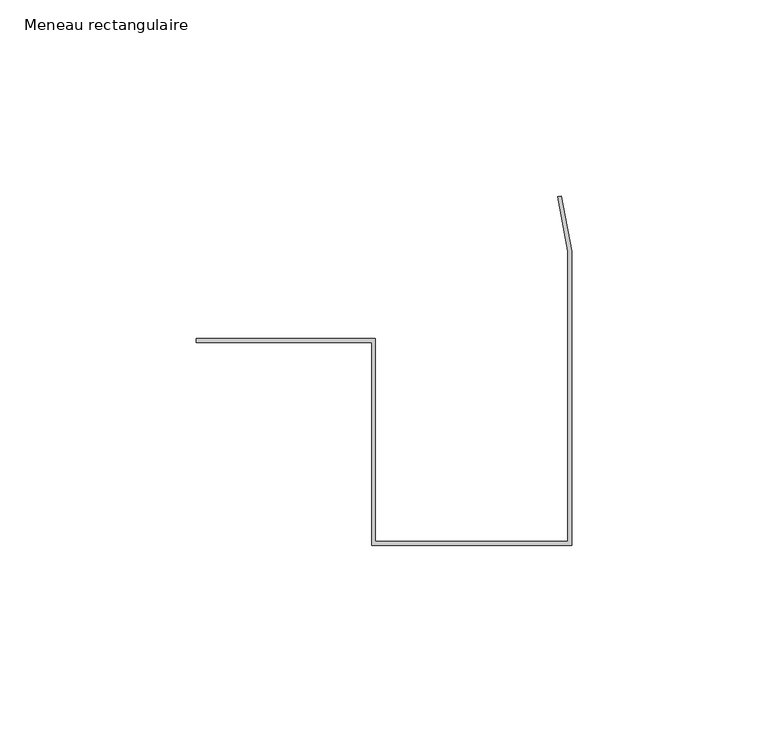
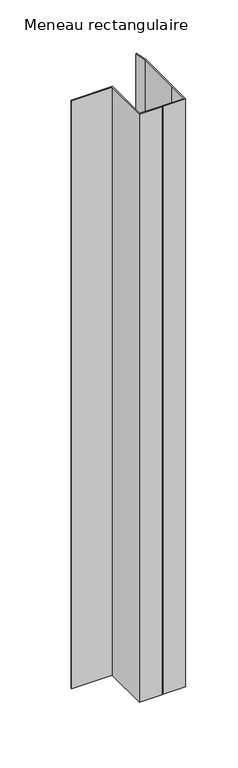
"""IFC4 building model written with IfcOpenShell, lengths in millimetres: member geometry, Meneau rectangulaire : Jonction contre mur Droite H."""

from ifc_helpers import new_model, si_unit, frame, origin, place, context, project, spatial, polyline, outline, extrude, source, transform, mapped, element, save


def meneau_rectangulaire_bee88b2e(model_context):
    return source(origin(), model_context, "Body", "SweptSolid", [
        extrude(outline(polyline([(-1.0, 26.3798616), (-3.6043568, 40.2461331), (-2.6384309, 40.4275528), (0.0, 26.3798616), (0.0, -23.6201384), (0.0, -48.6201384), (-25.0, -48.6201384), (-26.0, -48.6201384), (-51.0, -48.6201384), (-51.0, 3.1), (-95.6686418, 3.1), (-95.6686418, 4.1), (-50.0, 4.1), (-50.0, -47.6201384), (-26.0, -47.6201384), (-25.0, -47.6201384), (-1.0, -47.6201384), (-1.0, -23.6201384), (-1.0, 26.3798616)])), frame((0.0, 0.0, -685.1451617), z_axis=(0.0, 0.0, 1.0), x_axis=(1.0, 0.0, 0.0)), (0.0, 0.0, 1.0), 685.1451617),
    ])


if __name__ == "__main__":
    model = new_model("IFC4")
    model_context = context("Model", 3, world=origin())
    ifc_project = project(units=[si_unit("LENGTHUNIT", "METRE", prefix="MILLI")], contexts=[model_context])
    site = spatial("IfcSite", under=ifc_project)
    building = spatial("IfcBuilding", under=site)
    placement = place(None, origin())
    meneau_rectangulaire_shape = meneau_rectangulaire_bee88b2e(model_context)
    element("IfcMember", 1, ObjectType="Meneau rectangulaire : Jonction contre mur Droite H", at=placement, inside=building, context=model_context, shape_type="MappedRepresentation", body=[
        mapped(meneau_rectangulaire_shape, transform((0.0, 0.0, 0.0), x_axis=(1.0, 0.0, 0.0), y_axis=(0.0, 1.0, 0.0), z_axis=(0.0, 0.0, 1.0))),
    ])
    save(model, "model.ifc")
